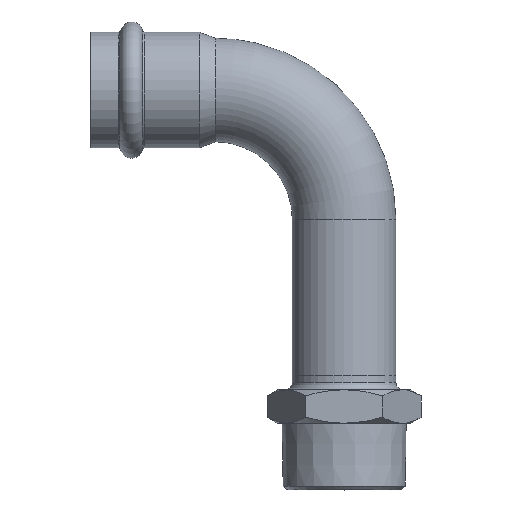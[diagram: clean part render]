
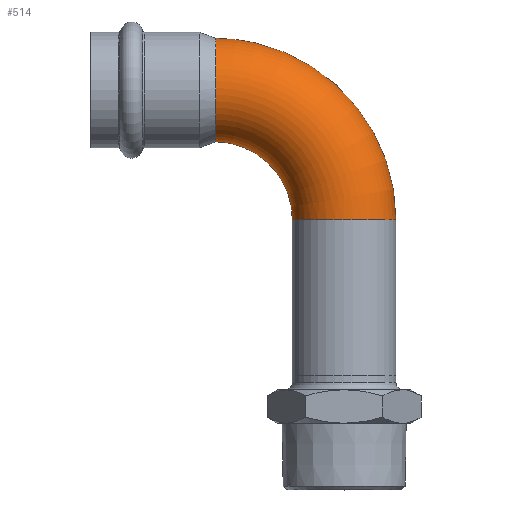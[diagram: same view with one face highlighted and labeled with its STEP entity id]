
A CAD part, top view. The second image highlights one B-rep face of the part: STEP entity #514.
In plain terms, the highlighted toroidal (fillet/blend) face has major radius 35 mm and minor radius 14 mm.
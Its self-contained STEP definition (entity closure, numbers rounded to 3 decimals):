
#439=CARTESIAN_POINT('',(14.,-35.0,0.));
#440=VERTEX_POINT('',#439);
#441=CARTESIAN_POINT('',(0.0,-35.0,0.0));
#442=DIRECTION('',(0.0,-1.0,0.0));
#443=DIRECTION('',(1.0,0.0,0.0));
#444=AXIS2_PLACEMENT_3D('',#441,#442,#443);
#445=CIRCLE('',#444,14.);
#446=EDGE_CURVE('',#440,#440,#445,.T.);
#463=CARTESIAN_POINT('',(-35.0,-35.0,0.));
#464=DIRECTION('',(0.,0.0,1.0));
#465=DIRECTION('',(1.0,0.0,0.0));
#466=AXIS2_PLACEMENT_3D('',#463,#464,#465);
#467=TOROIDAL_SURFACE('',#466,35.0,14.);
#468=CARTESIAN_POINT('',(-34.738,13.999,0.));
#469=VERTEX_POINT('',#468);
#470=CARTESIAN_POINT('',(-34.738,13.999,0.));
#471=CARTESIAN_POINT('',(-34.738,13.999,-1.823));
#472=CARTESIAN_POINT('',(-34.738,13.643,-3.628));
#473=CARTESIAN_POINT('',(-34.738,12.259,-7.001));
#474=CARTESIAN_POINT('',(-34.738,11.245,-8.536));
#475=CARTESIAN_POINT('',(-34.738,8.684,-11.131));
#476=CARTESIAN_POINT('',(-34.738,7.163,-12.165));
#477=CARTESIAN_POINT('',(-34.739,3.811,-13.594));
#478=CARTESIAN_POINT('',(-34.739,2.012,-13.974));
#479=CARTESIAN_POINT('',(-34.74,-1.631,-14.024));
#480=CARTESIAN_POINT('',(-34.74,-3.44,-13.693));
#481=CARTESIAN_POINT('',(-34.741,-6.83,-12.357));
#482=CARTESIAN_POINT('',(-34.742,-8.378,-11.364));
#483=CARTESIAN_POINT('',(-34.743,-11.01,-8.84));
#484=CARTESIAN_POINT('',(-34.743,-12.067,-7.331));
#485=CARTESIAN_POINT('',(-34.744,-13.544,-3.992));
#486=CARTESIAN_POINT('',(-34.744,-13.949,-2.193));
#487=CARTESIAN_POINT('',(-34.744,-14.045,1.453));
#488=CARTESIAN_POINT('',(-34.744,-13.736,3.267));
#489=CARTESIAN_POINT('',(-34.743,-12.444,6.671));
#490=CARTESIAN_POINT('',(-34.743,-11.472,8.231));
#491=CARTESIAN_POINT('',(-34.742,-8.984,10.892));
#492=CARTESIAN_POINT('',(-34.741,-7.491,11.968));
#493=CARTESIAN_POINT('',(-34.74,-4.175,13.487));
#494=CARTESIAN_POINT('',(-34.74,-2.384,13.916));
#495=CARTESIAN_POINT('',(-34.739,1.263,14.062));
#496=CARTESIAN_POINT('',(-34.739,3.083,13.777));
#497=CARTESIAN_POINT('',(-34.738,6.511,12.527));
#498=CARTESIAN_POINT('',(-34.738,8.086,11.573));
#499=CARTESIAN_POINT('',(-34.738,10.781,9.115));
#500=CARTESIAN_POINT('',(-34.738,11.875,7.635));
#501=CARTESIAN_POINT('',(-34.738,13.096,5.053));
#502=CARTESIAN_POINT('',(-34.738,13.433,4.075));
#503=CARTESIAN_POINT('',(-34.738,13.885,2.061));
#504=CARTESIAN_POINT('',(-34.738,13.999,1.032));
#505=CARTESIAN_POINT('',(-34.738,13.999,0.));
#506=B_SPLINE_CURVE_WITH_KNOTS('',3,(#470,#471,#472,#473,#474,#475,#476,#477,#478,#479,#480,#481,#482,#483,#484,#485,#486,#487,#488,#489,#490,#491,#492,#493,#494,#495,#496,#497,#498,#499,#500,#501,#502,#503,#504,#505),.UNSPECIFIED.,.T.,.U.,(4,2,2,2,2,2,2,2,2,2,2,2,2,2,2,2,2,4),(0.0,0.547,1.094,1.64,2.187,2.733,3.28,3.827,4.375,4.922,5.468,6.015,6.562,7.11,7.657,8.204,8.513,8.823),.UNSPECIFIED.);
#507=EDGE_CURVE('',#469,#469,#506,.T.);
#508=ORIENTED_EDGE('',*,*,#507,.F.);
#509=EDGE_LOOP('',(#508));
#510=FACE_OUTER_BOUND('',#509,.T.);
#511=ORIENTED_EDGE('',*,*,#446,.F.);
#512=EDGE_LOOP('',(#511));
#513=FACE_BOUND('',#512,.T.);
#514=ADVANCED_FACE('',(#510,#513),#467,.T.);
